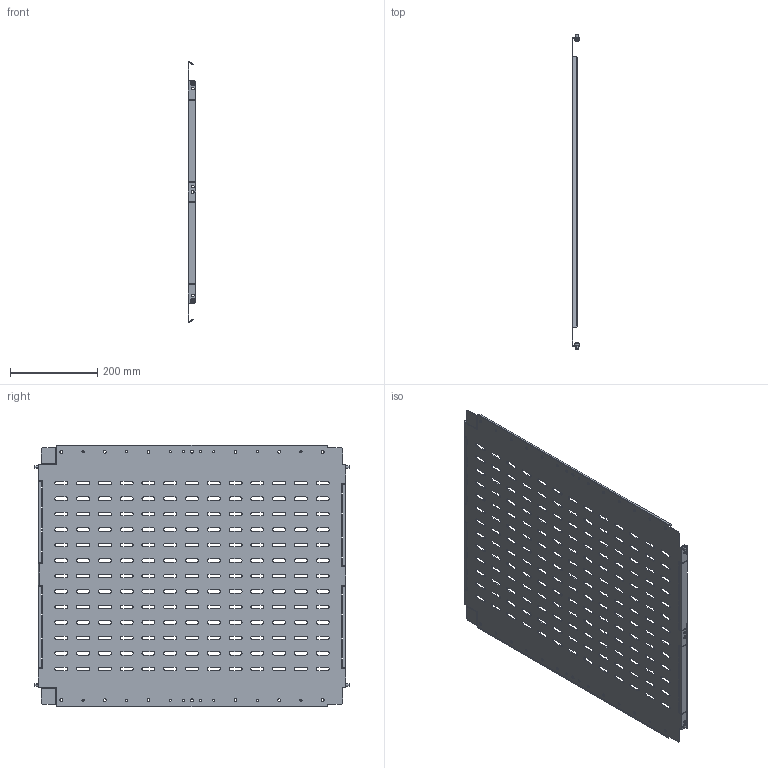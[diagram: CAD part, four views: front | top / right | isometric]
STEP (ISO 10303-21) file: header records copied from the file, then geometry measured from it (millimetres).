
FILE_DESCRIPTION (( 'STEP AP214' ), '1' );
FILE_NAME ('FO-00-SWV-060-080 Ïåðåãîðîäêà ñåêöèîíèðîâàíèÿ âåðòèêàëüíàÿ 600õ800 ìì.STEP', '2025-09-18T14:18:17', ( '' ), ( '' ), 'SwSTEP 2.0', 'SolidWorks 2023', '' );
FILE_SCHEMA (( 'AUTOMOTIVE_DESIGN' ));
Length unit declared in the file: millimetre
Products named in the file (1): FO-00-SWV-060-080 Перегородка секционирования вертикальная 600х800 мм
Bounding box: 17.5 x 721.9 x 600.39 mm (x, y, z)
Volume: 617880.9 mm3; surface area: 847872.2 mm2
Topology: 1 solids, 1 shells, 1099 faces, 3255 edges, 2158 vertices
Faces by surface type: plane 568, cylinder 499, cone 16, torus 16
Entity records: 37926 total; most frequent: CARTESIAN_POINT 6513, ORIENTED_EDGE 6510, DIRECTION 6501, EDGE_CURVE 3255, LINE 2209, VECTOR 2209, VERTEX_POINT 2158, AXIS2_PLACEMENT_3D 2146
